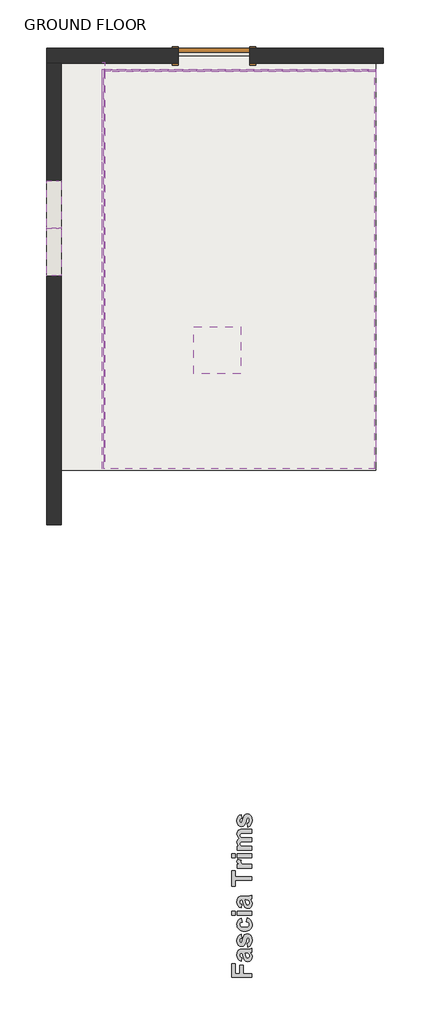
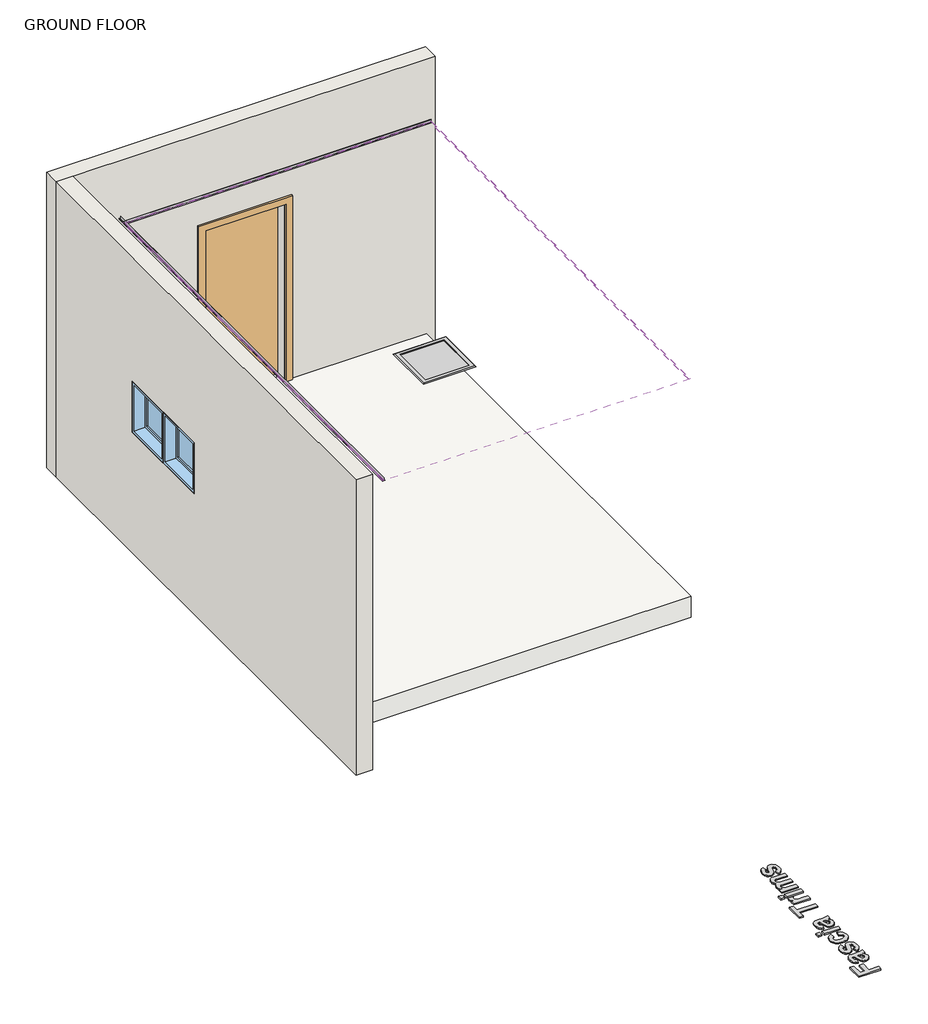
# One storey: 4 proxies, 2 coverings, 2 walls, 2 windows, 1 door, 1 slab.
"""IFC4 building model written with IfcOpenShell, lengths in millimetres."""

from ifc_helpers import new_model, si_unit, point, frame, frame_2d, origin, origin_with_axes, place, context, project, spatial, polyline, circle_curve, trimmed, segment, composite_curve, outline, extrude, faceted_brep, transform, mapped, element, save
from components import m_single_flush_0915_x_2134mm_f5238887, m_fixed_0610_x_0610mm_09852ef8

model = new_model("IFC4")

# Units and contexts
model_context = context("Model", 3, world=origin())
ifc_project = project(units=[si_unit("LENGTHUNIT", "METRE", prefix="MILLI")], contexts=[model_context])

# Site, building, storey
site = spatial("IfcSite", under=ifc_project)
building = spatial("IfcBuilding", under=site)
storey = spatial("IfcBuildingStorey", under=building, Name="GROUND FLOOR", Elevation=0.0)

# Proxies
placement = place(None, origin())
element("IfcBuildingElementProxy", 1, Name="Flushline Outer Frame : Flushline Outer Frame", ObjectType="Flushline Outer Frame : Flushline Outer Frame", at=placement, inside=storey, context=model_context, shape_type="SolidModel", body=[
    faceted_brep([(174682.6212716, 38803.4489557, 2611.475), (174682.6212716, 38292.7489557, 2611.475), (175193.3212716, 38292.7489557, 2611.475), (175193.3212716, 38803.4489557, 2611.475), (174688.9712716, 38797.0989557, 2611.475), (175186.9712716, 38797.0989557, 2611.475), (175186.9712716, 38299.0989557, 2611.475), (174688.9712716, 38299.0989557, 2611.475), (174682.6212716, 38803.4489557, 2600.0), (175193.3212716, 38803.4489557, 2600.0), (175193.3212716, 38292.7489557, 2600.0), (174682.6212716, 38292.7489557, 2600.0), (174688.9712716, 38797.0989557, 2600.0), (174688.9712716, 38299.0989557, 2600.0), (175186.9712716, 38299.0989557, 2600.0), (175186.9712716, 38797.0989557, 2600.0), (174682.6212716, 38803.4489557, 2611.0), (174682.6212716, 38292.7489557, 2611.0), (175193.3212716, 38292.7489557, 2611.0), (175193.3212716, 38803.4489557, 2611.0)], [[[0, 1, 2, 3], [4, 5, 6, 7]], [[8, 9, 10, 11], [12, 13, 14, 15]], [[5, 4, 12, 15]], [[6, 5, 15, 14]], [[7, 6, 14, 13]], [[4, 7, 13, 12]], [[1, 0, 16, 8, 11, 17]], [[2, 1, 17, 11, 10, 18]], [[3, 2, 18, 10, 9, 19]], [[0, 3, 19, 9, 8, 16]]]),
    extrude(outline(polyline([(174688.9712716, 38797.0989557), (175186.9712716, 38797.0989557), (175186.9712716, 38299.0989557), (174688.9712716, 38299.0989557), (174688.9712716, 38797.0989557)])), frame((0.0, 0.0, 2600.0), z_axis=(0.0, 0.0, 1.0), x_axis=(1.0, 0.0, 0.0)), (0.0, 0.0, 1.0), 11.475),
    faceted_brep([(174688.9712716, 38797.0989557, 2621.0), (174688.9712716, 38797.0989557, 2611.475), (175186.9712716, 38797.0989557, 2611.475), (175186.9712716, 38797.0989557, 2621.0), (175186.9712716, 38299.0989557, 2611.475), (175186.9712716, 38299.0989557, 2621.0), (174688.9712716, 38299.0989557, 2611.475), (174688.9712716, 38299.0989557, 2621.0), (175237.7712716, 38847.8989557, 2611.475), (175237.7712716, 38248.2989557, 2611.475), (174638.1712716, 38248.2989557, 2611.475), (174638.1712716, 38847.8989557, 2611.475), (174650.8712716, 38835.1989557, 2621.0), (174650.8712716, 38260.9989557, 2621.0), (175225.0712716, 38260.9989557, 2621.0), (175225.0712716, 38835.1989557, 2621.0)], [[[0, 1, 2, 3]], [[3, 2, 4, 5]], [[5, 4, 6, 7]], [[8, 9, 10, 11], [1, 6, 4, 2]], [[12, 13, 14, 15], [3, 5, 7, 0]], [[7, 6, 1, 0]], [[11, 12, 15, 8]], [[8, 15, 14, 9]], [[9, 14, 13, 10]], [[10, 13, 12, 11]]]),
    extrude(outline(composite_curve([segment(trimmed(circle_curve(frame_2d((174778.9712716, 38365.4489557)), 10.0), [point((174778.9712716, 38355.4489557))], [point((174778.9712716, 38375.4489557))], False, "CARTESIAN"), True, "CONTINUOUS"), segment(trimmed(circle_curve(frame_2d((174778.9712716, 38365.4489557)), 10.0), [point((174778.9712716, 38375.4489557))], [point((174778.9712716, 38355.4489557))], False, "CARTESIAN"), True, "CONTINUOUS")], self_intersect=False)), frame((0.0, 0.0, 2593.65), z_axis=(0.0, 0.0, 1.0), x_axis=(1.0, 0.0, 0.0)), (0.0, 0.0, 1.0), 6.35),
    extrude(outline(composite_curve([segment(trimmed(circle_curve(frame_2d((175096.9712716, 38365.4489557)), 10.0), [point((175096.9712716, 38355.4489557))], [point((175096.9712716, 38375.4489557))], False, "CARTESIAN"), True, "CONTINUOUS"), segment(trimmed(circle_curve(frame_2d((175096.9712716, 38365.4489557)), 10.0), [point((175096.9712716, 38375.4489557))], [point((175096.9712716, 38355.4489557))], False, "CARTESIAN"), True, "CONTINUOUS")], self_intersect=False)), frame((0.0, 0.0, 2593.65), z_axis=(0.0, 0.0, 1.0), x_axis=(1.0, 0.0, 0.0)), (0.0, 0.0, 1.0), 6.35),
])
element("IfcBuildingElementProxy", 2, Name="600mm Arial", ObjectType="600mm Arial", at=placement, inside=storey, context=model_context, shape_type="SweptSolid", body=[
    extrude(outline(polyline([(175380.0117989, 30521.4273938), (175124.946949, 30521.4273938), (175124.946949, 30695.5192756), (175169.4820815, 30695.5192756), (175169.4820815, 30570.0111748), (175226.1631593, 30570.0111748), (175226.1631593, 30679.3246819), (175270.6982918, 30679.3246819), (175270.6982918, 30570.0111748), (175380.0117989, 30570.0111748), (175380.0117989, 30521.4273938)])), origin_with_axes(), (0.0, 0.0, 1.0), 15.0),
    extrude(outline(polyline([(175250.4550497, 30776.4922438), (175242.3577529, 30731.9571113), (175219.0147644, 30741.6121888), (175202.6303904, 30756.4071521), (175192.9515903, 30777.9709494), (175189.7253236, 30807.9325291), (175191.6784801, 30835.0236804), (175197.5379498, 30854.1756852), (175206.3943682, 30867.1123821), (175217.3383709, 30875.5576096), (175234.3474388, 30880.2072293), (175261.3990525, 30881.7571025), (175318.8392518, 30881.7571025), (175355.024047, 30884.3191379), (175380.0117989, 30893.9030478), (175380.0117989, 30845.3192668), (175364.5763269, 30840.7645374), (175358.4400941, 30839.0565138), (175377.639544, 30813.0565998), (175382.4552215, 30798.743995), (175384.0604474, 30783.5141184), (175380.1620418, 30758.7398694), (175368.466825, 30739.8329976), (175350.8251558, 30727.8531102), (175329.0873931, 30723.8598144), (175314.1896322, 30725.6390056), (175300.9998948, 30730.9765792), (175290.1033371, 30739.5246045), (175282.0851155, 30750.9351507), (175270.6350317, 30787.9423276), (175258.5523466, 30833.1733216), (175253.4282759, 30833.1733216), (175240.8078797, 30831.6629859), (175232.4259123, 30827.131979), (175227.7288475, 30818.4258034), (175226.1631593, 30804.3899618), (175227.5074371, 30794.3157858), (175231.5402704, 30786.7403851), (175250.4550497, 30776.4922438)]), holes=[polyline([(175294.9901823, 30833.1733216), (175301.7273863, 30805.7816847), (175309.4134923, 30781.2367537), (175316.3246616, 30774.641885), (175324.9122245, 30772.4435954), (175333.5235099, 30774.2069716), (175340.8854076, 30779.4971), (175345.9383106, 30787.5074142), (175347.6226116, 30797.4313473), (175345.6615476, 30809.3400671), (175339.7783553, 30820.6478156), (175325.2285251, 30831.4020379), (175303.7833406, 30833.1733216), (175294.9901823, 30833.1733216)])]), origin_with_axes(), (0.0, 0.0, 1.0), 15.0),
    extrude(outline(polyline([(175327.3793696, 30910.0976414), (175319.2820728, 30958.6814224), (175331.5229082, 30963.3073195), (175340.4109567, 30971.1120382), (175345.8196979, 30982.3644341), (175347.6226116, 30997.3333627), (175345.8987731, 31013.5754014), (175340.7272573, 31025.2310806), (175335.0971056, 31029.9755905), (175327.8221905, 31031.5570938), (175318.7127316, 31028.2043068), (175312.3234583, 31012.3260138), (175299.8928425, 30965.4028113), (175288.5376489, 30939.5136025), (175270.5559565, 30923.5246043), (175246.722702, 30918.1949382), (175224.5342109, 30922.7654827), (175206.1729577, 30936.4771162), (175193.8372321, 30959.8042897), (175189.7253236, 30993.2214541), (175193.0464805, 31025.0887454), (175203.0099512, 31047.561907), (175219.4892154, 31062.5703732), (175242.3577529, 31072.0435779), (175250.4550497, 31023.459797), (175240.0645732, 31019.8855995), (175232.4259123, 31014.0972975), (175227.7288475, 31005.7469602), (175226.1631593, 30994.4866568), (175227.491622, 30980.648503), (175231.4770103, 30971.3967088), (175241.3455908, 30966.7787192), (175250.1387491, 30971.3967088), (175263.7396774, 31014.3819681), (175273.5608128, 31045.6087505), (175285.4379024, 31065.7175648), (175301.1106, 31076.5350472), (175321.9389983, 31080.1408747), (175345.637825, 31074.9140064), (175365.7466393, 31059.2334013), (175373.7589303, 31047.5243463), (175379.4819953, 31033.3046549), (175384.0604474, 30997.3333627), (175380.2490244, 30964.018996), (175368.8147557, 30938.4698104), (175350.8330633, 30920.5434706), (175327.3793696, 30910.0976414)])), origin_with_axes(), (0.0, 0.0, 1.0), 15.0),
    extrude(outline(polyline([(175246.4064013, 31278.524647), (175254.5036982, 31229.940866), (175242.14425, 31226.2164258), (175233.2799241, 31219.5978345), (175227.9423505, 31210.3223177), (175226.1631593, 31198.6271009), (175229.5001312, 31183.2232589), (175239.511047, 31171.2987242), (175257.334589, 31163.6600633), (175284.1094397, 31161.113843), (175313.7942564, 31163.762861), (175333.2625618, 31171.709915), (175344.0325992, 31184.1168083), (175347.6226116, 31200.1453441), (175345.5745649, 31212.2833818), (175339.4304246, 31222.0017195), (175328.2729189, 31229.2529121), (175311.1847759, 31233.9895144), (175319.2820728, 31282.5732954), (175347.4249237, 31271.9376858), (175367.7077034, 31254.5806872), (175379.9722614, 31230.3441493), (175384.0604474, 31199.0699219), (175382.4512678, 31180.3034085), (175377.623729, 31163.5414505), (175369.577831, 31148.784048), (175358.3135739, 31136.0312009), (175344.2065646, 31125.7494526), (175327.6324101, 31118.4053467), (175308.5911105, 31113.9988832), (175287.0826659, 31112.530062), (175265.331065, 31113.9889988), (175246.1296383, 31118.3658092), (175229.4783855, 31125.6604931), (175215.3773069, 31135.8730505), (175204.1545642, 31148.5764757), (175196.1383194, 31163.3437626), (175191.3285725, 31180.1749113), (175189.7253236, 31199.0699219), (175193.2283533, 31228.3119176), (175203.7374427, 31250.8799695), (175221.4107419, 31267.4066789), (175246.4064013, 31278.524647)])), origin_with_axes(), (0.0, 0.0, 1.0), 15.0),
    extrude(outline(polyline([(175169.4820815, 31319.0111311), (175124.946949, 31319.0111311), (175124.946949, 31367.594912), (175169.4820815, 31367.594912), (175169.4820815, 31319.0111311)])), origin_with_axes(), (0.0, 0.0, 1.0), 15.0),
    extrude(outline(polyline([(175380.0117989, 31319.0111311), (175193.773972, 31319.0111311), (175193.773972, 31367.594912), (175380.0117989, 31367.594912), (175380.0117989, 31319.0111311)])), origin_with_axes(), (0.0, 0.0, 1.0), 15.0),
    extrude(outline(polyline([(175250.4550497, 31456.6651771), (175242.3577529, 31412.1300446), (175219.0147644, 31421.7851221), (175202.6303904, 31436.5800854), (175192.9515903, 31458.1438827), (175189.7253236, 31488.1054624), (175191.6784801, 31515.1966137), (175197.5379498, 31534.3486185), (175206.3943682, 31547.2853154), (175217.3383709, 31555.730543), (175234.3474388, 31560.3801626), (175261.3990525, 31561.9300358), (175318.8392518, 31561.9300358), (175355.024047, 31564.4920712), (175380.0117989, 31574.0759811), (175380.0117989, 31525.4922001), (175364.5763269, 31520.9374707), (175358.4400941, 31519.2294471), (175377.639544, 31493.2295331), (175382.4552215, 31478.9169283), (175384.0604474, 31463.6870517), (175380.1620418, 31438.9128027), (175368.466825, 31420.0059309), (175350.8251558, 31408.0260435), (175329.0873931, 31404.0327477), (175314.1896322, 31405.8119389), (175300.9998948, 31411.1495125), (175290.1033371, 31419.6975378), (175282.0851155, 31431.108084), (175270.6350317, 31468.1152609), (175258.5523466, 31513.3462549), (175253.4282759, 31513.3462549), (175240.8078797, 31511.8359192), (175232.4259123, 31507.3049123), (175227.7288475, 31498.5987367), (175226.1631593, 31484.5628951), (175227.5074371, 31474.4887191), (175231.5402704, 31466.9133184), (175250.4550497, 31456.6651771)]), holes=[polyline([(175294.9901823, 31513.3462549), (175301.7273863, 31485.954618), (175309.4134923, 31461.409687), (175316.3246616, 31454.8148183), (175324.9122245, 31452.6165287), (175333.5235099, 31454.3799049), (175340.8854076, 31459.6700333), (175345.9383106, 31467.6803475), (175347.6226116, 31477.6042806), (175345.6615476, 31489.5130004), (175339.7783553, 31500.8207489), (175325.2285251, 31511.5749712), (175303.7833406, 31513.3462549), (175294.9901823, 31513.3462549)])]), origin_with_axes(), (0.0, 0.0, 1.0), 15.0),
    extrude(outline(polyline([(175380.0117989, 31764.3624565), (175169.4820815, 31764.3624565), (175169.4820815, 31691.486785), (175124.946949, 31691.486785), (175124.946949, 31885.8219088), (175169.4820815, 31885.8219088), (175169.4820815, 31812.9462374), (175380.0117989, 31812.9462374), (175380.0117989, 31764.3624565)])), origin_with_axes(), (0.0, 0.0, 1.0), 15.0),
    extrude(outline(polyline([(175380.0117989, 31966.7948771), (175380.0117989, 31918.2110961), (175193.773972, 31918.2110961), (175193.773972, 31966.7948771), (175219.7106259, 31966.7948771), (175195.5136256, 31986.2157374), (175189.7253236, 32005.8263782), (175192.2873589, 32020.9929947), (175199.9734649, 32035.6219001), (175246.2166209, 32021.4516307), (175240.2859836, 32009.7485063), (175238.3091045, 31998.9310239), (175243.844366, 31981.8191583), (175251.6016396, 31975.5722203), (175263.8029375, 31970.8118954), (175324.2796231, 31966.7948771), (175380.0117989, 31966.7948771)])), origin_with_axes(), (0.0, 0.0, 1.0), 15.0),
    extrude(outline(polyline([(175169.4820815, 32055.8651422), (175124.946949, 32055.8651422), (175124.946949, 32104.4489231), (175169.4820815, 32104.4489231), (175169.4820815, 32055.8651422)])), origin_with_axes(), (0.0, 0.0, 1.0), 15.0),
    extrude(outline(polyline([(175380.0117989, 32055.8651422), (175193.773972, 32055.8651422), (175193.773972, 32104.4489231), (175380.0117989, 32104.4489231), (175380.0117989, 32055.8651422)])), origin_with_axes(), (0.0, 0.0, 1.0), 15.0),
    extrude(outline(polyline([(175193.773972, 32148.9840556), (175193.773972, 32197.5678366), (175218.6984638, 32197.5678366), (175206.0227149, 32209.5279552), (175196.9686086, 32222.5714036), (175191.5361448, 32236.6981817), (175189.7253236, 32251.9082895), (175191.5045148, 32267.5572645), (175196.8420883, 32280.9763199), (175205.7854894, 32292.1812707), (175218.3821631, 32301.1879319), (175205.7854894, 32313.6264553), (175196.8420883, 32327.0296956), (175191.5045148, 32341.3818379), (175189.7253236, 32356.6670672), (175191.8050004, 32375.1232105), (175198.0440308, 32390.5112375), (175208.3158947, 32402.6255527), (175222.4940716, 32411.2605606), (175238.071879, 32414.9612783), (175261.0194917, 32416.1948509), (175380.0117989, 32416.1948509), (175380.0117989, 32367.6110699), (175272.7858761, 32367.6110699), (175249.8382635, 32366.3774974), (175236.7908614, 32362.6767797), (175228.8200848, 32354.2948123), (175226.1631593, 32342.3070173), (175227.7525701, 32332.6044947), (175232.5208025, 32323.4871282), (175240.3571513, 32315.8959125), (175251.1509112, 32310.7718418), (175289.9293718, 32306.8813437), (175380.0117989, 32306.8813437), (175380.0117989, 32258.2975628), (175277.2140853, 32258.2975628), (175241.8833019, 32255.7671575), (175230.0536574, 32247.9545313), (175226.1631593, 32233.5628514), (175227.705125, 32223.1723748), (175232.3310221, 32213.8889505), (175239.8747928, 32206.3926249), (175250.1703792, 32201.3634445), (175288.8539495, 32197.5678366), (175380.0117989, 32197.5678366), (175380.0117989, 32148.9840556), (175193.773972, 32148.9840556)])), origin_with_axes(), (0.0, 0.0, 1.0), 15.0),
    extrude(outline(polyline([(175327.3793696, 32444.5353898), (175319.2820728, 32493.1191707), (175331.5229082, 32497.7450678), (175340.4109567, 32505.5497865), (175345.8196979, 32516.8021824), (175347.6226116, 32531.771111), (175345.8987731, 32548.0131498), (175340.7272573, 32559.668829), (175335.0971056, 32564.4133389), (175327.8221905, 32565.9948421), (175318.7127316, 32562.6420552), (175312.3234583, 32546.7637622), (175299.8928425, 32499.8405597), (175288.5376489, 32473.9513509), (175270.5559565, 32457.9623527), (175246.722702, 32452.6326866), (175224.5342109, 32457.2032311), (175206.1729577, 32470.9148646), (175193.8372321, 32494.242038), (175189.7253236, 32527.6592025), (175193.0464805, 32559.5264937), (175203.0099512, 32581.9996554), (175219.4892154, 32597.0081216), (175242.3577529, 32606.4813263), (175250.4550497, 32557.8975453), (175240.0645732, 32554.3233479), (175232.4259123, 32548.5350459), (175227.7288475, 32540.1847085), (175226.1631593, 32528.9244051), (175227.491622, 32515.0862514), (175231.4770103, 32505.8344571), (175241.3455908, 32501.2164675), (175250.1387491, 32505.8344571), (175263.7396774, 32548.8197165), (175273.5608128, 32580.0464988), (175285.4379024, 32600.1553131), (175301.1106, 32610.9727956), (175321.9389983, 32614.5786231), (175345.637825, 32609.3517547), (175365.7466393, 32593.6711496), (175373.7589303, 32581.9620947), (175379.4819953, 32567.7424033), (175384.0604474, 32531.771111), (175380.2490244, 32498.4567443), (175368.8147557, 32472.9075587), (175350.8330633, 32454.981219), (175327.3793696, 32444.5353898)])), origin_with_axes(), (0.0, 0.0, 1.0), 15.0),
])
element("IfcBuildingElementProxy", 3, Name="TR10 : Trims Fascia Trims", ObjectType="TR10 : Trims Fascia Trims", at=placement, inside=storey, context=model_context, shape_type="Brep", body=[
    faceted_brep([(176960.7345529, 42125.4193804, 2600.0), (176960.7345529, 42110.9193804, 2600.0), (176960.7345529, 42110.9193804, 2599.0), (176960.7345529, 42143.9193804, 2599.0), (176960.7345529, 42143.9193804, 2615.0), (176960.7345529, 42142.9193804, 2615.0), (176960.7345529, 42142.9193804, 2600.0), (176960.7345529, 42126.4193804, 2600.0), (176960.7345529, 42126.4193804, 2630.0), (176960.7345529, 42125.4193804, 2630.0), (173499.7345529, 42110.9193804, 2600.0), (173499.7345529, 42110.9193804, 2599.0), (173499.7345529, 42143.9193804, 2599.0), (173485.2345529, 42142.9193804, 2615.0), (173485.2345529, 42142.9193804, 2600.0), (173499.7345529, 42142.9193804, 2600.0), (173485.2345529, 42143.9193804, 2615.0), (173499.7345529, 42125.4193804, 2600.0), (173499.7345529, 42143.9193804, 2600.0), (173485.2345529, 42143.9193804, 2600.0), (173499.7345529, 42126.4193804, 2600.0), (173485.2345529, 42126.4193804, 2600.0), (173485.2345529, 42126.4193804, 2630.0), (173485.2345529, 42125.4193804, 2630.0), (173485.2345529, 42125.4193804, 2600.0)], [[[0, 1, 2, 3, 4, 5, 6, 7, 8, 9]], [[2, 1, 10, 11]], [[3, 2, 11, 12]], [[6, 5, 13, 14, 15]], [[5, 4, 16, 13]], [[1, 0, 17, 10]], [[4, 3, 12, 18, 19, 16]], [[17, 20, 15, 18, 12, 11, 10]], [[18, 15, 14, 19]], [[7, 6, 15, 20]], [[8, 7, 20, 21, 22]], [[9, 8, 22, 23]], [[0, 9, 23, 24, 17]], [[19, 14, 13, 16]], [[20, 17, 24, 21]], [[21, 24, 23, 22]]]),
])
element("IfcBuildingElementProxy", 4, Name="TR10 : Trims Fascia Trims", ObjectType="TR10 : Trims Fascia Trims", at=placement, inside=storey, context=model_context, shape_type="Brep", body=[
    faceted_brep([(173499.7345529, 42234.4193804, 2600.0), (173499.7345529, 42234.4193804, 2599.0), (173466.7345529, 42234.4193804, 2599.0), (173466.7345529, 42234.4193804, 2615.0), (173467.7345529, 42234.4193804, 2615.0), (173467.7345529, 42234.4193804, 2600.0), (173484.2345529, 42234.4193804, 2600.0), (173484.2345529, 42234.4193804, 2630.0), (173485.2345529, 42234.4193804, 2630.0), (173485.2345529, 42234.4193804, 2600.0), (173499.7345529, 37029.4193804, 2600.0), (173485.2345529, 37029.4193804, 2600.0), (173485.2345529, 37029.4193804, 2630.0), (173484.2345529, 37029.4193804, 2630.0), (173484.2345529, 37029.4193804, 2600.0), (173467.7345529, 37029.4193804, 2600.0), (173467.7345529, 37029.4193804, 2615.0), (173466.7345529, 37029.4193804, 2615.0), (173466.7345529, 37029.4193804, 2599.0), (173499.7345529, 37029.4193804, 2599.0), (173499.7345529, 42143.9193804, 2600.0), (173499.7345529, 42142.9193804, 2600.0), (173499.7345529, 42126.4193804, 2600.0), (173499.7345529, 42125.4193804, 2600.0), (173499.7345529, 42110.9193804, 2600.0), (173499.7345529, 42110.9193804, 2599.0), (173499.7345529, 42143.9193804, 2599.0), (173485.2345529, 42143.9193804, 2600.0), (173485.2345529, 42142.9193804, 2600.0), (173485.2345529, 42126.4193804, 2600.0), (173485.2345529, 42125.4193804, 2600.0), (173485.2345529, 42125.4193804, 2630.0), (173485.2345529, 42126.4193804, 2630.0)], [[[0, 1, 2, 3, 4, 5, 6, 7, 8, 9]], [[10, 11, 12, 13, 14, 15, 16, 17, 18, 19]], [[1, 0, 20, 21, 22, 23, 24, 10, 19, 25, 26]], [[2, 1, 26, 25, 19, 18]], [[5, 4, 16, 15]], [[4, 3, 17, 16]], [[0, 9, 27, 28, 29, 30, 11, 10, 24, 23, 22, 21, 20]], [[3, 2, 18, 17]], [[6, 5, 15, 14]], [[7, 6, 14, 13]], [[8, 7, 13, 12, 31, 32]], [[9, 8, 32, 31, 12, 11, 30, 29, 28, 27]]]),
])

# Coverings
element("IfcCovering", 5, ObjectType="_C2.3 - 12mm FLUSHPLASTER CEILING (UNDER CONCRETE SOFFIT)", at=placement, inside=storey, context=model_context, shape_type="SweptSolid", body=[
    extrude(outline(polyline([(173485.2345529, 42125.4193804), (176966.7345529, 42125.4193804), (176966.7345529, 37029.4193804), (173485.2345529, 37029.4193804), (173485.2345529, 42125.4193804)]), holes=[polyline([(174682.6212716, 38803.4489557), (174682.6212716, 38292.7489557), (175193.3212716, 38292.7489557), (175193.3212716, 38803.4489557), (174682.6212716, 38803.4489557)])]), frame((0.0, 0.0, 2600.0), z_axis=(0.0, 0.0, 1.0), x_axis=(1.0, 0.0, 0.0)), (0.0, 0.0, 1.0), 11.0),
])
element("IfcCovering", 6, ObjectType="_C2.3 - 12mm FLUSHPLASTER CEILING (UNDER CONCRETE SOFFIT) - vertical", at=placement, inside=storey, context=model_context, shape_type="SweptSolid", body=[
    extrude(outline(polyline([(176966.7345529, 42142.9193804), (176966.7345529, 37029.4193804), (176950.2345529, 37029.4193804), (176950.2345529, 42126.4193804), (173484.2345529, 42126.4193804), (173484.2345529, 37029.4193804), (173467.7345529, 37029.4193804), (173467.7345529, 42142.9193804), (176966.7345529, 42142.9193804)])), frame((0.0, 0.0, 2600.0), z_axis=(0.0, 0.0, 1.0), x_axis=(1.0, 0.0, 0.0)), (0.0, 0.0, 1.0), 350.0),
])

# Door
m_single_flush_0915_x_2134mm_shape = m_single_flush_0915_x_2134mm_f5238887(model_context)
element("IfcDoor", 7, ObjectType="M_Single-Flush : 0915 x 2134mm", at=placement, inside=storey, context=model_context, shape_type="MappedRepresentation", body=[
    mapped(m_single_flush_0915_x_2134mm_shape, transform((174894.7345529, 42312.9193804, 0.0), x_axis=(1.0, 0.0, 0.0), y_axis=(0.0, 1.0, 0.0), z_axis=(0.0, 0.0, 1.0))),
])

# Slab
element("IfcSlab", 8, ObjectType="Generic Floor - 250mm", at=placement, inside=storey, context=model_context, shape_type="Brep", body=[
    faceted_brep([(172866.7345529, 42312.9193804, -250.0), (176966.7345529, 42312.9193804, -250.0), (176966.7345529, 42217.9193804, -250.0), (176966.7345529, 37012.9193804, -250.0), (172866.7345529, 37012.9193804, -250.0), (172866.7345529, 42217.9193804, -250.0), (172866.7345529, 42312.9193804, 0.0), (172866.7345529, 42217.9193804, 0.0), (172866.7345529, 37012.9193804, 0.0), (176966.7345529, 37012.9193804, 0.0), (176966.7345529, 42217.9193804, 0.0), (176966.7345529, 42312.9193804, 0.0), (175352.2345529, 42312.9193804, 0.0), (174437.2345529, 42312.9193804, 0.0)], [[[0, 1, 2, 3, 4, 5]], [[6, 7, 8, 9, 10, 11, 12, 13]], [[1, 0, 6, 13, 12, 11]], [[3, 2, 1, 11, 10, 9]], [[4, 3, 9, 8]], [[0, 5, 4, 8, 7, 6]]]),
])

# Walls
element("IfcWall", 9, ObjectType="190mm MAXI BLOCK- plastered", at=placement, inside=storey, context=model_context, shape_type="Brep", body=[
    faceted_brep([(177061.7345529, 42217.9193804, -250.0), (177061.7345529, 42217.9193804, 3300.0), (172942.7345529, 42217.9193804, 3300.0), (172752.7345529, 42217.9193804, 3300.0), (172752.7345529, 42217.9193804, -250.0), (172866.7345529, 42217.9193804, -250.0), (172866.7345529, 42217.9193804, 0.0), (174437.2345529, 42217.9193804, 0.0), (174437.2345529, 42217.9193804, 2134.0), (175352.2345529, 42217.9193804, 2134.0), (175352.2345529, 42217.9193804, 0.0), (176966.7345529, 42217.9193804, 0.0), (176966.7345529, 42217.9193804, -250.0), (177061.7345529, 42407.9193804, -250.0), (172752.7345529, 42407.9193804, -250.0), (172752.7345529, 42407.9193804, 3300.0), (177061.7345529, 42407.9193804, 3300.0), (174437.2345529, 42407.9193804, 0.0), (175352.2345529, 42407.9193804, 0.0), (175352.2345529, 42407.9193804, 2134.0), (174437.2345529, 42407.9193804, 2134.0), (176966.7345529, 42312.9193804, -250.0), (172866.7345529, 42312.9193804, -250.0), (174437.2345529, 42312.9193804, 0.0), (175352.2345529, 42312.9193804, 0.0), (172866.7345529, 42312.9193804, 0.0), (176966.7345529, 42312.9193804, 0.0)], [[[0, 1, 2, 3, 4, 5, 6, 7, 8, 9, 10, 11, 12]], [[13, 14, 15, 16], [17, 18, 19, 20]], [[14, 13, 0, 12, 21, 22, 5, 4]], [[1, 0, 13, 16]], [[3, 2, 1, 16, 15]], [[18, 17, 23, 24]], [[19, 18, 24, 10, 9]], [[20, 19, 9, 8]], [[17, 20, 8, 7, 23]], [[25, 23, 7, 6]], [[24, 26, 11, 10]], [[25, 22, 21, 26, 24, 23]], [[22, 25, 6, 5]], [[26, 21, 12, 11]], [[4, 3, 15, 14]]]),
])
element("IfcWall", 10, ObjectType="190mm MAXI BLOCK- plastered", at=placement, inside=storey, context=model_context, shape_type="Brep", body=[
    faceted_brep([(172942.7345529, 36312.9193804, -250.0), (172942.7345529, 42217.9193804, -250.0), (172942.7345529, 42217.9193804, 3300.0), (172942.7345529, 36312.9193804, 3300.0), (172942.7345529, 39497.9193804, 1810.0), (172942.7345529, 40717.9193804, 1810.0), (172942.7345529, 40717.9193804, 1200.0), (172942.7345529, 39497.9193804, 1200.0), (172752.7345529, 42217.9193804, -250.0), (172752.7345529, 36312.9193804, -250.0), (172752.7345529, 36312.9193804, 3300.0), (172752.7345529, 42217.9193804, 3300.0), (172752.7345529, 39497.9193804, 1200.0), (172752.7345529, 40717.9193804, 1200.0), (172752.7345529, 40717.9193804, 1810.0), (172752.7345529, 39497.9193804, 1810.0), (172866.7345529, 42217.9193804, -250.0)], [[[0, 1, 2, 3], [4, 5, 6, 7]], [[8, 9, 10, 11], [12, 13, 14, 15]], [[1, 0, 9, 8, 16]], [[3, 2, 11, 10]], [[0, 3, 10, 9]], [[2, 1, 16, 8, 11]], [[14, 13, 6, 5]], [[14, 5, 4, 15]], [[12, 7, 6, 13]], [[15, 4, 7, 12]]]),
])

# Windows
m_fixed_0610_x_0610mm_shape = m_fixed_0610_x_0610mm_09852ef8(model_context)
element("IfcWindow", 11, ObjectType="M_Fixed : 0610 x 0610mm", at=placement, inside=storey, context=model_context, shape_type="MappedRepresentation", body=[
    mapped(m_fixed_0610_x_0610mm_shape, transform((172834.7345529, 40412.9193804, 285.0), x_axis=(0.0, -1.0, 0.0), y_axis=(1.0, 0.0, 0.0), z_axis=(0.0, 0.0, 1.0))),
])
element("IfcWindow", 12, ObjectType="M_Fixed : 0610 x 0610mm", at=placement, inside=storey, context=model_context, shape_type="MappedRepresentation", body=[
    mapped(m_fixed_0610_x_0610mm_shape, transform((172834.7345529, 39802.9193804, 285.0), x_axis=(0.0, -1.0, 0.0), y_axis=(1.0, 0.0, 0.0), z_axis=(0.0, 0.0, 1.0))),
])

save(model, "model.ifc")
